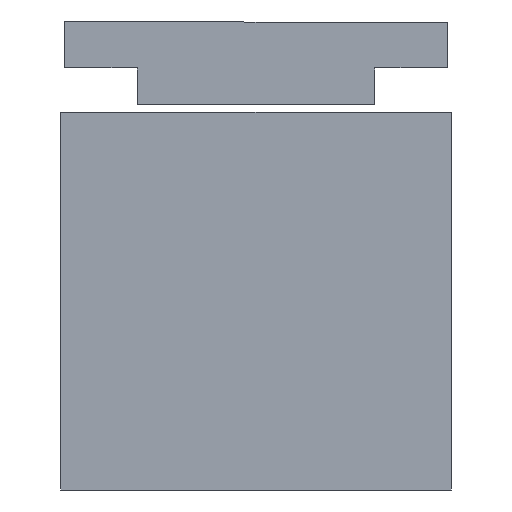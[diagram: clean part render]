
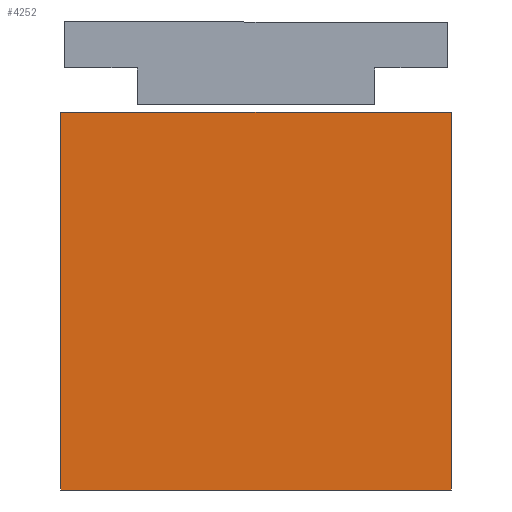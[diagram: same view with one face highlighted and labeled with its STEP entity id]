
A CAD part, left-side view. The second image highlights one B-rep face of the part: STEP entity #4252.
In plain terms, the highlighted planar face has unit normal (-1, 0, 0).
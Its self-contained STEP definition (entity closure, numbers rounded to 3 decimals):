
#415 = DIRECTION ( 'NONE',  ( 0., -1., 0. ) ) ;
#798 = EDGE_CURVE ( 'NONE', #8377, #5085, #3076, .T. ) ;
#1295 = CARTESIAN_POINT ( 'NONE',  ( -182., 25.5, 49.3 ) ) ;
#1730 = ORIENTED_EDGE ( 'NONE', *, *, #3523, .F. ) ;
#1794 = CARTESIAN_POINT ( 'NONE',  ( -182., -25.5, 49.3 ) ) ;
#1936 = ORIENTED_EDGE ( 'NONE', *, *, #798, .T. ) ;
#2008 = CARTESIAN_POINT ( 'NONE',  ( -182., -25.5, 0. ) ) ;
#2029 = CARTESIAN_POINT ( 'NONE',  ( -182., -25.5, 49.3 ) ) ;
#2123 = CARTESIAN_POINT ( 'NONE',  ( -182., -25.5, 0. ) ) ;
#2711 = DIRECTION ( 'NONE',  ( 0., -1., 0. ) ) ;
#2915 = DIRECTION ( 'NONE',  ( 1., 0., 0. ) ) ;
#3076 = LINE ( 'NONE', #2008, #7408 ) ;
#3523 = EDGE_CURVE ( 'NONE', #6550, #5011, #8650, .T. ) ;
#3635 = DIRECTION ( 'NONE',  ( 0., 0., -1. ) ) ;
#3819 = ORIENTED_EDGE ( 'NONE', *, *, #4512, .T. ) ;
#4252 = ADVANCED_FACE ( 'NONE', ( #5937 ), #5146, .F. ) ;
#4328 = ORIENTED_EDGE ( 'NONE', *, *, #7929, .F. ) ;
#4512 = EDGE_CURVE ( 'NONE', #6550, #8377, #5841, .T. ) ;
#4831 = VECTOR ( 'NONE', #415, 1000. ) ;
#5011 = VERTEX_POINT ( 'NONE', #2029 ) ;
#5085 = VERTEX_POINT ( 'NONE', #2123 ) ;
#5126 = CARTESIAN_POINT ( 'NONE',  ( -182., 25.5, 49.3 ) ) ;
#5146 = PLANE ( 'NONE',  #8189 ) ;
#5505 = DIRECTION ( 'NONE',  ( 0., 0., -1. ) ) ;
#5815 = EDGE_LOOP ( 'NONE', ( #1936, #4328, #1730, #3819 ) ) ;
#5841 = LINE ( 'NONE', #1295, #9150 ) ;
#5879 = CARTESIAN_POINT ( 'NONE',  ( -182., -25.5, 49.3 ) ) ;
#5937 = FACE_OUTER_BOUND ( 'NONE', #5815, .T. ) ;
#6531 = VECTOR ( 'NONE', #5505, 1000. ) ;
#6550 = VERTEX_POINT ( 'NONE', #5126 ) ;
#7408 = VECTOR ( 'NONE', #2711, 1000. ) ;
#7426 = LINE ( 'NONE', #8310, #6531 ) ;
#7929 = EDGE_CURVE ( 'NONE', #5011, #5085, #7426, .T. ) ;
#8189 = AXIS2_PLACEMENT_3D ( 'NONE', #5879, #2915, #3635 ) ;
#8210 = CARTESIAN_POINT ( 'NONE',  ( -182., 25.5, 0. ) ) ;
#8220 = DIRECTION ( 'NONE',  ( 0., 0., -1. ) ) ;
#8310 = CARTESIAN_POINT ( 'NONE',  ( -182., -25.5, 49.3 ) ) ;
#8377 = VERTEX_POINT ( 'NONE', #8210 ) ;
#8650 = LINE ( 'NONE', #1794, #4831 ) ;
#9150 = VECTOR ( 'NONE', #8220, 1000. ) ;
